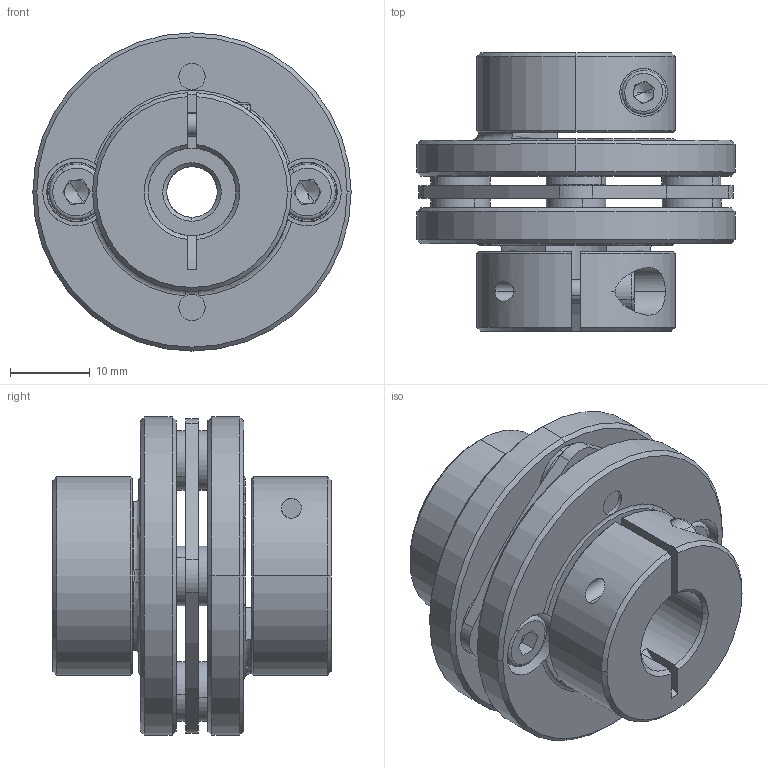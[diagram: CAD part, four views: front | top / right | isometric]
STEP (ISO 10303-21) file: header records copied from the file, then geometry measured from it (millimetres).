
FILE_DESCRIPTION (( 'STEP AP203' ), '1' );
FILE_NAME ('LE1-B-D40L35-6.35-11.STEP', '2021-11-01T02:06:20', ( '' ), ( '' ), 'SwSTEP 2.0', 'SolidWorks 2018', '' );
FILE_SCHEMA (( 'CONFIG_CONTROL_DESIGN' ));
Length unit declared in the file: millimetre
Products named in the file (1): LE1-B-D40L35-6.35-11
Bounding box: 40 x 35 x 40 mm (x, y, z)
Volume: 20046 mm3; surface area: 12741.1 mm2
Topology: 1 solids, 13 shells, 423 faces, 1021 edges, 630 vertices
Faces by surface type: cylinder 149, plane 140, cone 114, torus 18, bspline 2
Entity records: 12768 total; most frequent: CARTESIAN_POINT 2461, DIRECTION 2335, ORIENTED_EDGE 2018, EDGE_CURVE 1009, AXIS2_PLACEMENT_3D 952, VERTEX_POINT 630, CIRCLE 530, EDGE_LOOP 491
